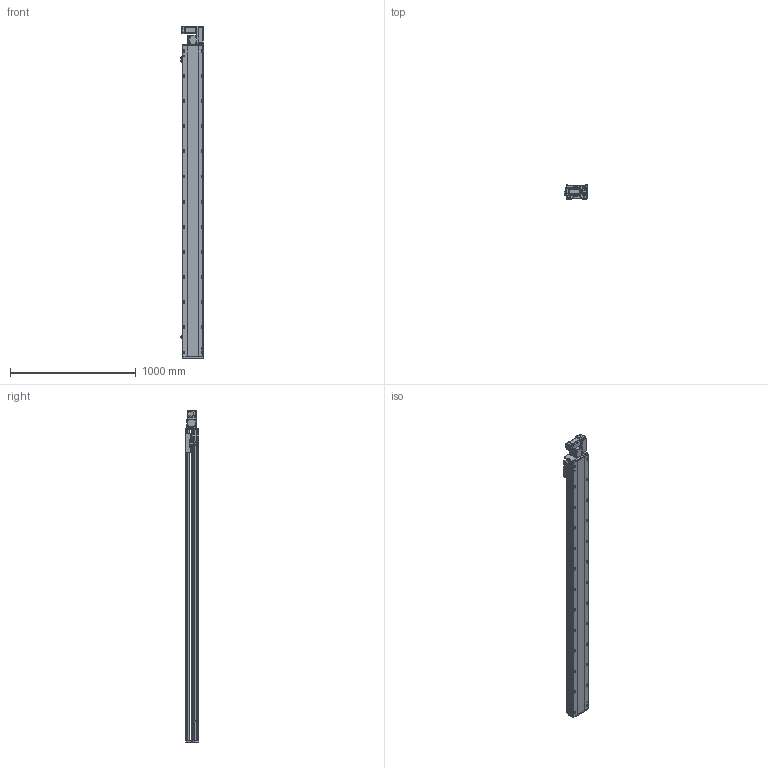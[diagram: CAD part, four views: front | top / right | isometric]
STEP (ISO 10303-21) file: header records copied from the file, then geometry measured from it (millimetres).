
FILE_DESCRIPTION (( 'STEP AP214' ), '1' );
FILE_NAME ('RTB17S-XX-2200-R-M40-C4.STEP', '2025-12-11T07:45:11', ( '' ), ( '' ), 'SwSTEP 2.0', 'SolidWorks 2018', '' );
FILE_SCHEMA (( 'AUTOMOTIVE_DESIGN' ));
Length unit declared in the file: millimetre
Products named in the file (14): RTB17S-L-014-T20--々湍釱^RTB17S-R-々湍釱蚾饜-400W_RTB17S-XX-XX-R-M40-C4; RTH13-BL-012覜茼え俋离^RTB17S-XX-XX-R-M40-C4; RTB14-L-005P--轴承塑胶压盖^RTB17S-R-皮带座装配-400W_RTB17S-XX-XX-R-M40-C4; OMRON EE-SX672 传感器^RTB17S-XX-XX-R-M40-C4; RTB17S-L-001耜醱啣^RTB17S-XX-XX-R-M40-C4; RTB17S-L-007奻裔^RTB17S-XX-XX-R-M40-C4; RTB14-L-018P^RTB17S-R-々湍釱蚾饜-400W_RTB17S-XX-XX-R-M40-C4; RTB17S-XX-2200-R-M40-C4; RTB17S-R-々湍釱蚾饜-400W^RTB17S-XX-XX-R-M40-C4; RTB17-R-011菁釱^RTB17S-XX-XX-R-M40-C4; RTB17S-L-004佪裝蹟譫蟀諉釱^RTB17S-XX-XX-R-M40-C4; RTB14-L-017P^RTB17S-R-々湍釱蚾饜-400W_RTB17S-XX-XX-R-M40-C4; 400W侜督萇儂^RTB17S-XX-XX-R-M40-C4; RTB14-L-008-M20--萇儂啣^RTB17S-R-々湍釱蚾饜-400W_RTB17S-XX-XX-R-M40-C4
Assembly tree (16 placements, depth 3):
  RTB17S-XX-2200-R-M40-C4
    RTB17-R-011菁釱^RTB17S-XX-XX-R-M40-C4
    RTB17S-L-007奻裔^RTB17S-XX-XX-R-M40-C4
    OMRON EE-SX672 传感器^RTB17S-XX-XX-R-M40-C4  x3
    RTB17S-L-001耜醱啣^RTB17S-XX-XX-R-M40-C4
    400W侜督萇儂^RTB17S-XX-XX-R-M40-C4
    RTB17S-L-004佪裝蹟譫蟀諉釱^RTB17S-XX-XX-R-M40-C4
    RTH13-BL-012覜茼え俋离^RTB17S-XX-XX-R-M40-C4
    RTB17S-R-々湍釱蚾饜-400W^RTB17S-XX-XX-R-M40-C4
      RTB17S-L-014-T20--々湍釱^RTB17S-R-々湍釱蚾饜-400W_RTB17S-XX-XX-R-M40-C4
      RTB14-L-005P--轴承塑胶压盖^RTB17S-R-皮带座装配-400W_RTB17S-XX-XX-R-M40-C4
      RTB14-L-008-M20--萇儂啣^RTB17S-R-々湍釱蚾饜-400W_RTB17S-XX-XX-R-M40-C4
      RTB14-L-017P^RTB17S-R-々湍釱蚾饜-400W_RTB17S-XX-XX-R-M40-C4  x2
      RTB14-L-018P^RTB17S-R-々湍釱蚾饜-400W_RTB17S-XX-XX-R-M40-C4
Bounding box: 183.5 x 108 x 2641 mm (x, y, z)
Volume: 22162872.7 mm3; surface area: 2564315.2 mm2
Topology: 15 solids, 15 shells, 2301 faces, 6411 edges, 4185 vertices
Faces by surface type: plane 1080, cylinder 773, bspline 301, cone 139, torus 8
Entity records: 67241 total; most frequent: CARTESIAN_POINT 19016, ORIENTED_EDGE 9666, DIRECTION 8936, EDGE_CURVE 4833, VERTEX_POINT 3173, AXIS2_PLACEMENT_3D 3103, LINE 2730, VECTOR 2730
